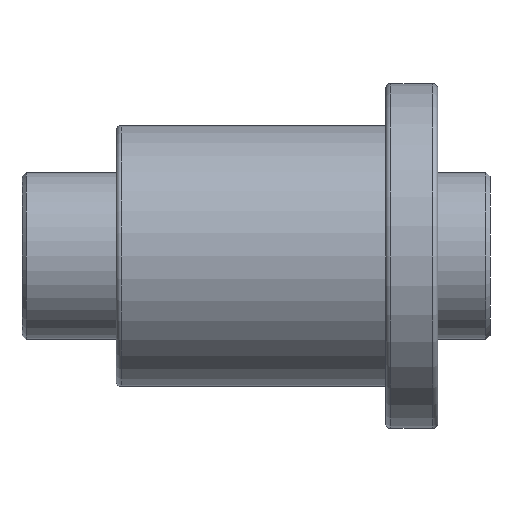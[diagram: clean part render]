
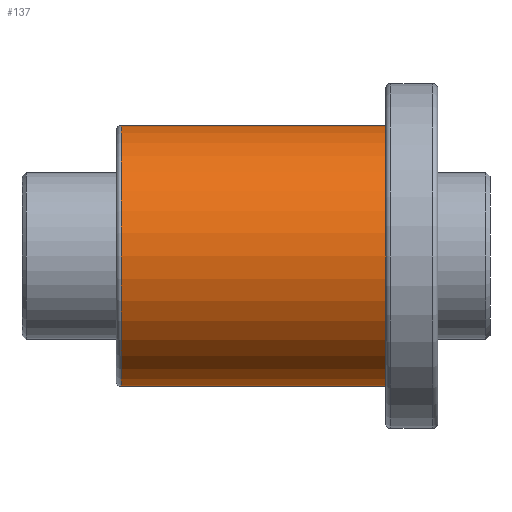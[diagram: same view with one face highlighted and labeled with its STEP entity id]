
A CAD part, front view. The second image highlights one B-rep face of the part: STEP entity #137.
In plain terms, the highlighted cylindrical face has radius 62.5 mm (diameter 125 mm), a full revolution.
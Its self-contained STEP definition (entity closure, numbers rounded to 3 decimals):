
#137=ADVANCED_FACE('',(#199,#200),#168,.T.);
#168=CYLINDRICAL_SURFACE('',#561,62.5);
#199=FACE_BOUND('',#271,.T.);
#200=FACE_BOUND('',#272,.T.);
#271=EDGE_LOOP('',(#353));
#272=EDGE_LOOP('',(#354));
#353=ORIENTED_EDGE('',*,*,#472,.T.);
#354=ORIENTED_EDGE('',*,*,#470,.F.);
#429=VERTEX_POINT('',#798);
#431=VERTEX_POINT('',#803);
#470=EDGE_CURVE('',#429,#429,#511,.T.);
#472=EDGE_CURVE('',#431,#431,#513,.T.);
#511=CIRCLE('',#557,62.5);
#513=CIRCLE('',#560,62.5);
#557=AXIS2_PLACEMENT_3D('',#797,#650,#651);
#560=AXIS2_PLACEMENT_3D('',#802,#656,#657);
#561=AXIS2_PLACEMENT_3D('',#804,#658,#659);
#650=DIRECTION('',(1.,0.,0.));
#651=DIRECTION('',(0.,1.,0.));
#656=DIRECTION('',(1.,0.,0.));
#657=DIRECTION('',(0.,1.,0.));
#658=DIRECTION('',(1.,0.,0.));
#659=DIRECTION('',(0.,1.,0.));
#797=CARTESIAN_POINT('',(-50.,0.,0.));
#798=CARTESIAN_POINT('',(-50.,62.5,0.));
#802=CARTESIAN_POINT('',(-176.5,0.,0.));
#803=CARTESIAN_POINT('',(-176.5,62.5,0.));
#804=CARTESIAN_POINT('',(-204.,0.,0.));
